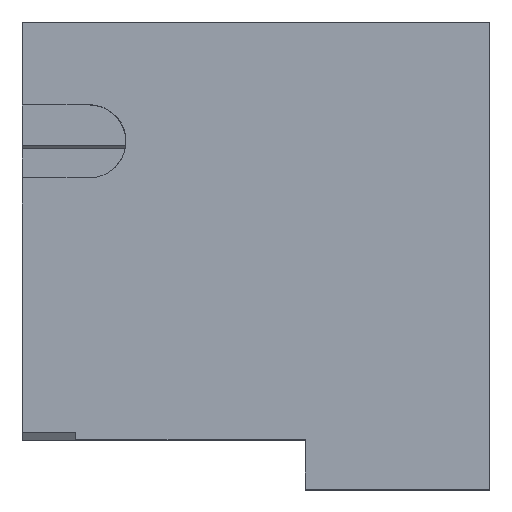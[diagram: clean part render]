
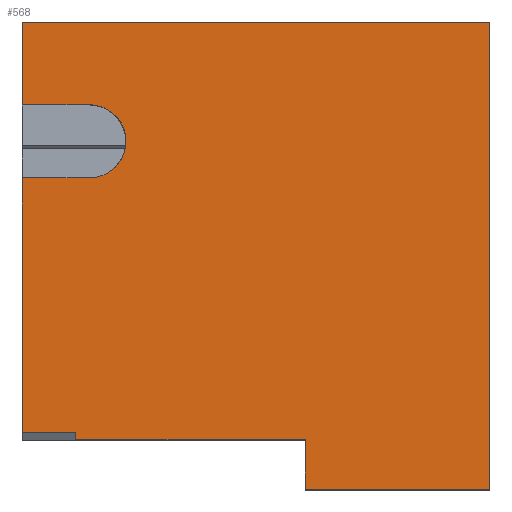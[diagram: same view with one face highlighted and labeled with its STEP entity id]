
A CAD part, top view. The second image highlights one B-rep face of the part: STEP entity #568.
In plain terms, the highlighted planar face has unit normal (0, 0, 1).
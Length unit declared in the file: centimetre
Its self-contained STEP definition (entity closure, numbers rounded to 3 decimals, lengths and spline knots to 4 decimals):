
#7 = CARTESIAN_POINT ( 'NONE',  ( 605.9144, 0., 1000. ) ) ;
#22 = AXIS2_PLACEMENT_3D ( 'NONE', #605, #91, #1020 ) ;
#41 = ORIENTED_EDGE ( 'NONE', *, *, #914, .F. ) ;
#48 = VECTOR ( 'NONE', #1310, 100. ) ;
#49 = ORIENTED_EDGE ( 'NONE', *, *, #57, .T. ) ;
#57 = EDGE_CURVE ( 'NONE', #191, #431, #1317, .T. ) ;
#61 = VECTOR ( 'NONE', #1026, 100. ) ;
#68 = EDGE_CURVE ( 'NONE', #1326, #1259, #809, .T. ) ;
#73 = DIRECTION ( 'NONE',  ( 0., 0., 1. ) ) ;
#80 = VECTOR ( 'NONE', #855, 100. ) ;
#85 = PLANE ( 'NONE',  #22 ) ;
#91 = DIRECTION ( 'NONE',  ( 0., 0., 1. ) ) ;
#118 = VECTOR ( 'NONE', #495, 100. ) ;
#132 = CIRCLE ( 'NONE', #797, 78.4073 ) ;
#138 = EDGE_LOOP ( 'NONE', ( #1126, #391, #274, #193, #599, #873, #1140, #1251, #1314, #41, #389, #521, #49 ) ) ;
#147 = CARTESIAN_POINT ( 'NONE',  ( 605.9144, 0., 1000. ) ) ;
#159 = CARTESIAN_POINT ( 'NONE',  ( 1000., 1000., 1000. ) ) ;
#162 = EDGE_CURVE ( 'NONE', #745, #860, #505, .T. ) ;
#167 = CARTESIAN_POINT ( 'NONE',  ( 0., 121.0752, 1000. ) ) ;
#168 = DIRECTION ( 'NONE',  ( 1., 0., 0. ) ) ;
#175 = DIRECTION ( 'NONE',  ( 0., -1., 0. ) ) ;
#191 = VERTEX_POINT ( 'NONE', #1240 ) ;
#193 = ORIENTED_EDGE ( 'NONE', *, *, #162, .F. ) ;
#205 = CARTESIAN_POINT ( 'NONE',  ( 114.0313, 106.0462, 1000. ) ) ;
#257 = DIRECTION ( 'NONE',  ( -1., 0., 0. ) ) ;
#274 = ORIENTED_EDGE ( 'NONE', *, *, #406, .F. ) ;
#288 = CARTESIAN_POINT ( 'NONE',  ( 143.2086, 823.0473, 1000. ) ) ;
#294 = CARTESIAN_POINT ( 'NONE',  ( 0., 1000., 1000. ) ) ;
#295 = FACE_OUTER_BOUND ( 'NONE', #138, .T. ) ;
#309 = DIRECTION ( 'NONE',  ( 0., 1., 0. ) ) ;
#328 = VERTEX_POINT ( 'NONE', #205 ) ;
#357 = EDGE_CURVE ( 'NONE', #1265, #1326, #1262, .T. ) ;
#359 = VECTOR ( 'NONE', #175, 100. ) ;
#389 = ORIENTED_EDGE ( 'NONE', *, *, #1131, .F. ) ;
#391 = ORIENTED_EDGE ( 'NONE', *, *, #876, .F. ) ;
#393 = CARTESIAN_POINT ( 'NONE',  ( 0., 1000., 1000. ) ) ;
#406 = EDGE_CURVE ( 'NONE', #860, #328, #1206, .T. ) ;
#419 = CARTESIAN_POINT ( 'NONE',  ( 1000., 1000., 1000. ) ) ;
#431 = VERTEX_POINT ( 'NONE', #167 ) ;
#433 = EDGE_CURVE ( 'NONE', #191, #1021, #775, .T. ) ;
#438 = CARTESIAN_POINT ( 'NONE',  ( 143.2086, 823.0473, 1000. ) ) ;
#439 = VERTEX_POINT ( 'NONE', #1080 ) ;
#477 = LINE ( 'NONE', #1296, #48 ) ;
#495 = DIRECTION ( 'NONE',  ( 0., -1., 0. ) ) ;
#502 = CARTESIAN_POINT ( 'NONE',  ( 143.2086, 666.2326, 1000. ) ) ;
#505 = LINE ( 'NONE', #7, #830 ) ;
#507 = VERTEX_POINT ( 'NONE', #610 ) ;
#509 = EDGE_CURVE ( 'NONE', #1257, #1259, #597, .T. ) ;
#510 = DIRECTION ( 'NONE',  ( 0., 0., 1. ) ) ;
#521 = ORIENTED_EDGE ( 'NONE', *, *, #433, .F. ) ;
#525 = EDGE_CURVE ( 'NONE', #439, #431, #617, .T. ) ;
#558 = AXIS2_PLACEMENT_3D ( 'NONE', #615, #510, #765 ) ;
#562 = CARTESIAN_POINT ( 'NONE',  ( 0., 1000., 1000. ) ) ;
#568 = ADVANCED_FACE ( 'NONE', ( #295 ), #85, .T. ) ;
#597 = LINE ( 'NONE', #288, #61 ) ;
#599 = ORIENTED_EDGE ( 'NONE', *, *, #940, .T. ) ;
#605 = CARTESIAN_POINT ( 'NONE',  ( 0., 0., 1000. ) ) ;
#610 = CARTESIAN_POINT ( 'NONE',  ( 1000., 0., 1000. ) ) ;
#615 = CARTESIAN_POINT ( 'NONE',  ( 143.2086, 744.6399, 1000. ) ) ;
#617 = LINE ( 'NONE', #1225, #1273 ) ;
#644 = VERTEX_POINT ( 'NONE', #839 ) ;
#672 = CARTESIAN_POINT ( 'NONE',  ( 605.9144, 106.0462, 1000. ) ) ;
#709 = VECTOR ( 'NONE', #257, 100. ) ;
#745 = VERTEX_POINT ( 'NONE', #147 ) ;
#765 = DIRECTION ( 'NONE',  ( 1., 0., 0. ) ) ;
#769 = CARTESIAN_POINT ( 'NONE',  ( 0., 823.0473, 1000. ) ) ;
#775 = LINE ( 'NONE', #801, #993 ) ;
#797 = AXIS2_PLACEMENT_3D ( 'NONE', #1210, #73, #168 ) ;
#801 = CARTESIAN_POINT ( 'NONE',  ( 0., 666.2326, 1000. ) ) ;
#809 = LINE ( 'NONE', #294, #118 ) ;
#814 = DIRECTION ( 'NONE',  ( 1., 0., 0. ) ) ;
#817 = VECTOR ( 'NONE', #814, 100. ) ;
#825 = DIRECTION ( 'NONE',  ( -1., 0., 0. ) ) ;
#830 = VECTOR ( 'NONE', #309, 100. ) ;
#839 = CARTESIAN_POINT ( 'NONE',  ( 221.6159, 744.6399, 1000. ) ) ;
#855 = DIRECTION ( 'NONE',  ( 0., 1., 0. ) ) ;
#860 = VERTEX_POINT ( 'NONE', #999 ) ;
#873 = ORIENTED_EDGE ( 'NONE', *, *, #998, .T. ) ;
#876 = EDGE_CURVE ( 'NONE', #328, #439, #477, .T. ) ;
#885 = VECTOR ( 'NONE', #1304, 100. ) ;
#886 = CIRCLE ( 'NONE', #558, 78.4073 ) ;
#914 = EDGE_CURVE ( 'NONE', #644, #1257, #132, .T. ) ;
#940 = EDGE_CURVE ( 'NONE', #745, #507, #1096, .T. ) ;
#993 = VECTOR ( 'NONE', #1293, 100. ) ;
#998 = EDGE_CURVE ( 'NONE', #507, #1265, #1122, .T. ) ;
#999 = CARTESIAN_POINT ( 'NONE',  ( 605.9144, 106.0462, 1000. ) ) ;
#1020 = DIRECTION ( 'NONE',  ( 1., 0., 0. ) ) ;
#1021 = VERTEX_POINT ( 'NONE', #502 ) ;
#1026 = DIRECTION ( 'NONE',  ( -1., 0., 0. ) ) ;
#1080 = CARTESIAN_POINT ( 'NONE',  ( 114.0313, 121.0752, 1000. ) ) ;
#1096 = LINE ( 'NONE', #1300, #817 ) ;
#1122 = LINE ( 'NONE', #419, #80 ) ;
#1126 = ORIENTED_EDGE ( 'NONE', *, *, #525, .F. ) ;
#1131 = EDGE_CURVE ( 'NONE', #1021, #644, #886, .T. ) ;
#1140 = ORIENTED_EDGE ( 'NONE', *, *, #357, .T. ) ;
#1206 = LINE ( 'NONE', #672, #885 ) ;
#1210 = CARTESIAN_POINT ( 'NONE',  ( 143.2086, 744.6399, 1000. ) ) ;
#1225 = CARTESIAN_POINT ( 'NONE',  ( 0., 121.0752, 1000. ) ) ;
#1240 = CARTESIAN_POINT ( 'NONE',  ( 0., 666.2326, 1000. ) ) ;
#1251 = ORIENTED_EDGE ( 'NONE', *, *, #68, .T. ) ;
#1254 = CARTESIAN_POINT ( 'NONE',  ( 0., 1000., 1000. ) ) ;
#1257 = VERTEX_POINT ( 'NONE', #438 ) ;
#1259 = VERTEX_POINT ( 'NONE', #769 ) ;
#1262 = LINE ( 'NONE', #1254, #709 ) ;
#1265 = VERTEX_POINT ( 'NONE', #159 ) ;
#1273 = VECTOR ( 'NONE', #825, 100. ) ;
#1293 = DIRECTION ( 'NONE',  ( 1., 0., 0. ) ) ;
#1296 = CARTESIAN_POINT ( 'NONE',  ( 114.0313, 0., 1000. ) ) ;
#1300 = CARTESIAN_POINT ( 'NONE',  ( 0., 0., 1000. ) ) ;
#1304 = DIRECTION ( 'NONE',  ( -1., 0., 0. ) ) ;
#1310 = DIRECTION ( 'NONE',  ( 0., 1., 0. ) ) ;
#1314 = ORIENTED_EDGE ( 'NONE', *, *, #509, .F. ) ;
#1317 = LINE ( 'NONE', #393, #359 ) ;
#1326 = VERTEX_POINT ( 'NONE', #562 ) ;
